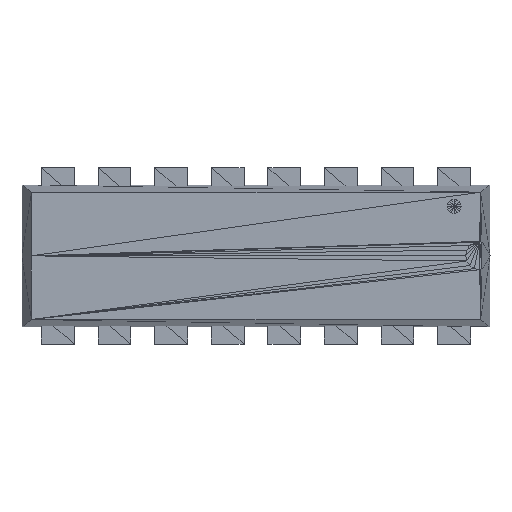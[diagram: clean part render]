
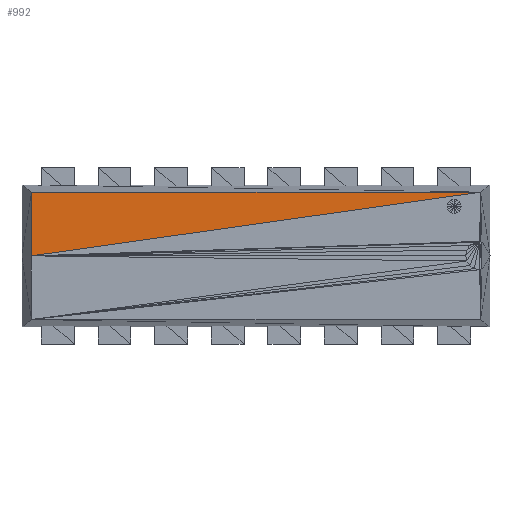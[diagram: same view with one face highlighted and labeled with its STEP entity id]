
A CAD part, top view. The second image highlights one B-rep face of the part: STEP entity #992.
In plain terms, the highlighted planar face has unit normal (0, 0, 1).
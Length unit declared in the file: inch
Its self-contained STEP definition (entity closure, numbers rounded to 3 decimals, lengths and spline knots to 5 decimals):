
#221=CARTESIAN_POINT('',(-0.39717,-0.00003,0.175));
#222=VERTEX_POINT('',#221);
#243=CARTESIAN_POINT('',(-0.39649,0.11247,0.17502));
#244=VERTEX_POINT('',#243);
#252=CARTESIAN_POINT('',(-0.39717,-0.00003,0.175));
#253=DIRECTION('',(0.006,1.,0.));
#254=VECTOR('',#253,0.1125);
#255=LINE('',#252,#254);
#256=EDGE_CURVE('',#222,#244,#255,.T.);
#377=CARTESIAN_POINT('',(0.39649,0.11247,0.17502));
#378=VERTEX_POINT('',#377);
#379=CARTESIAN_POINT('',(-0.39649,0.11247,0.17502));
#380=DIRECTION('',(1.,0.,-0.));
#381=VECTOR('',#380,0.79298);
#382=LINE('',#379,#381);
#383=EDGE_CURVE('',#244,#378,#382,.T.);
#787=CARTESIAN_POINT('',(-0.39717,-0.00003,0.175));
#788=DIRECTION('',(0.99,0.14,0.));
#789=VECTOR('',#788,0.80159);
#790=LINE('',#787,#789);
#791=EDGE_CURVE('',#222,#378,#790,.T.);
#982=CARTESIAN_POINT('',(-0.39717,-0.00003,0.175));
#983=DIRECTION('',(0.,0.,1.));
#984=DIRECTION('',(1.,0.,0.));
#985=AXIS2_PLACEMENT_3D('',#982,#983,#984);
#986=PLANE('',#985);
#987=ORIENTED_EDGE('',*,*,#791,.T.);
#988=ORIENTED_EDGE('',*,*,#383,.F.);
#989=ORIENTED_EDGE('',*,*,#256,.F.);
#990=EDGE_LOOP('',(#987,#988,#989));
#991=FACE_BOUND('',#990,.T.);
#992=ADVANCED_FACE('',(#991),#986,.T.);
